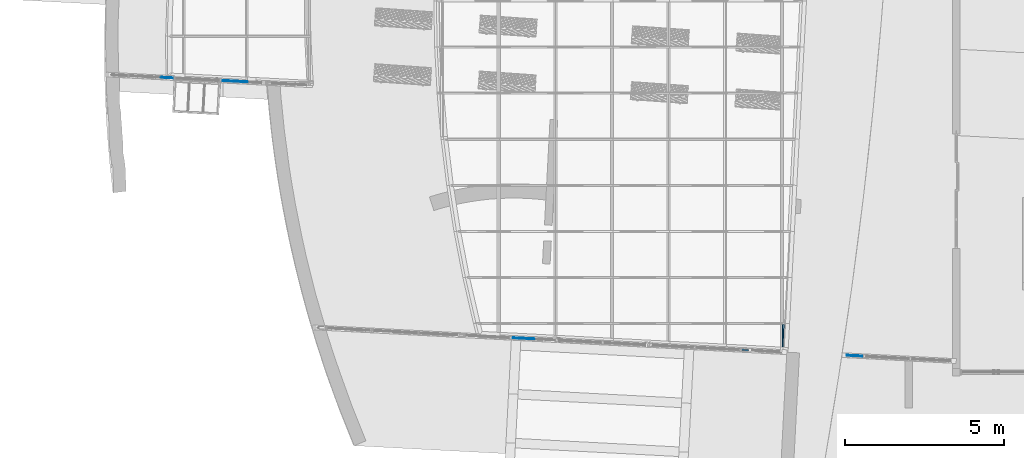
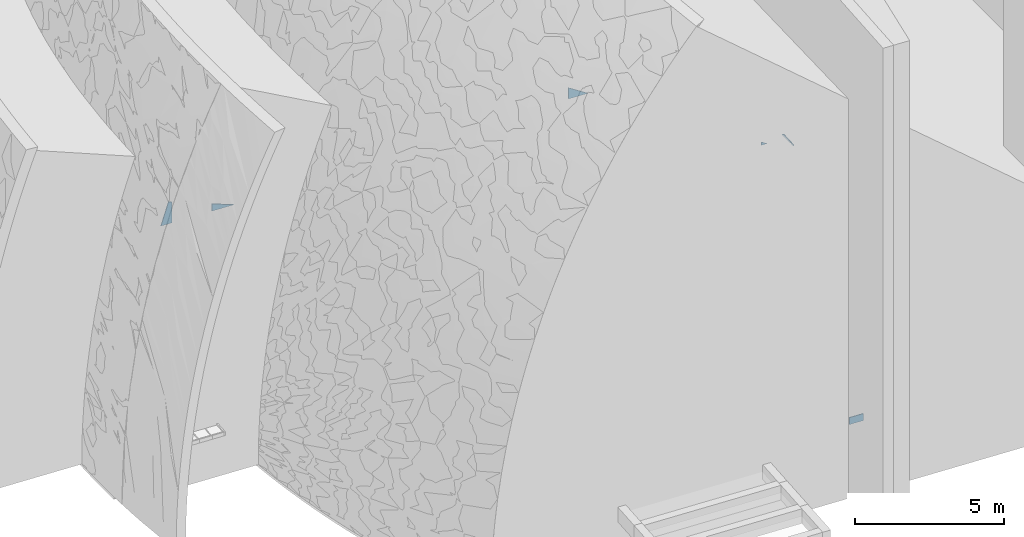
# One storey, part 47 of 82: 6 plates, 3 elements without a shape of their own.
"""IFC2X3 building model written with IfcOpenShell, lengths in millimetres."""

from ifc_helpers import new_model, entity, si_unit, converted_unit, derived_unit, direction, frame, frame_2d, origin, place, context, subcontext, project, spatial, polyline, rectangle, outline, extrude, source, transform, mapped, material, layer, layer_set, layer_usage, type_object, type_shapes, element, aggregate, save


model = new_model("IFC2X3")

# Units and contexts
model_context = context("Model", 3, precision=0.01, world=origin(), true_north=direction((6.12303176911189e-17, 1.0)))
body_context = subcontext(model_context, "Body", "Model", "MODEL_VIEW")
ifc_project = project(units=[si_unit("LENGTHUNIT", "METRE", prefix="MILLI"), si_unit("AREAUNIT", "SQUARE_METRE"), si_unit("VOLUMEUNIT", "CUBIC_METRE"), converted_unit("PLANEANGLEUNIT", "DEGREE", entity("IfcRatioMeasure", 0.0174532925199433), si_unit("PLANEANGLEUNIT", "RADIAN"), dimensions=[0, 0, 0, 0, 0, 0, 0]), si_unit("MASSUNIT", "GRAM", prefix="KILO"), derived_unit("MASSDENSITYUNIT", [(si_unit("MASSUNIT", "GRAM", prefix="KILO"), 1), (si_unit("LENGTHUNIT", "METRE"), -3)]), si_unit("TIMEUNIT", "SECOND"), si_unit("FREQUENCYUNIT", "HERTZ"), si_unit("THERMODYNAMICTEMPERATUREUNIT", "DEGREE_CELSIUS"), derived_unit("THERMALTRANSMITTANCEUNIT", [(si_unit("MASSUNIT", "GRAM", prefix="KILO"), 1), (si_unit("THERMODYNAMICTEMPERATUREUNIT", "KELVIN"), -1), (si_unit("TIMEUNIT", "SECOND"), -3)]), derived_unit("VOLUMETRICFLOWRATEUNIT", [(si_unit("LENGTHUNIT", "METRE"), 3), (si_unit("TIMEUNIT", "SECOND"), -1)]), si_unit("ELECTRICCURRENTUNIT", "AMPERE"), si_unit("ELECTRICVOLTAGEUNIT", "VOLT"), si_unit("POWERUNIT", "WATT"), si_unit("FORCEUNIT", "NEWTON", prefix="KILO"), si_unit("ILLUMINANCEUNIT", "LUX"), si_unit("LUMINOUSFLUXUNIT", "LUMEN"), si_unit("LUMINOUSINTENSITYUNIT", "CANDELA"), derived_unit("USERDEFINED", [(si_unit("MASSUNIT", "GRAM", prefix="KILO"), -1), (si_unit("LENGTHUNIT", "METRE"), -2), (si_unit("TIMEUNIT", "SECOND"), 3), (si_unit("LUMINOUSFLUXUNIT", "LUMEN"), 1)]), derived_unit("LINEARVELOCITYUNIT", [(si_unit("LENGTHUNIT", "METRE"), 1), (si_unit("TIMEUNIT", "SECOND"), -1)]), si_unit("PRESSUREUNIT", "PASCAL"), derived_unit("USERDEFINED", [(si_unit("LENGTHUNIT", "METRE"), -2), (si_unit("MASSUNIT", "GRAM", prefix="KILO"), 1), (si_unit("TIMEUNIT", "SECOND"), -2)])], contexts=[model_context])

# Site, building, storey
site_placement = place(None, origin())
site = spatial("IfcSite", under=ifc_project, at=site_placement, Name="表面", CompositionType="ELEMENT")
building_placement = place(site_placement, origin())
building = spatial("IfcBuilding", under=site, at=building_placement, CompositionType="ELEMENT")
storey_placement = place(building_placement, origin())
storey = spatial("IfcBuildingStorey", under=building, at=storey_placement, Name="1F", CompositionType="ELEMENT", Elevation=0.0)

# Curtain wall, plate
curtain_wall_type = type_object("IfcCurtainWallType", Name="幕墙系统:1450 x 2100mm", PredefinedType="NOTDEFINED")
curtain_wall_1_placement = place(storey_placement, origin())
curtain_wall_1 = element("IfcCurtainWall", 1, at=curtain_wall_1_placement, inside=storey, type_object=curtain_wall_type, Name="幕墙系统:1450 x 2100mm", ObjectType="幕墙系统:1450 x 2100mm")
ifc_material = material(Name="<Unnamed>")
ifc_layer = layer(ifc_material, 30.0)
ifc_layer_set = layer_set([ifc_layer], Name="幕墙系统:1450 x 2100mm")
ifc_layer_usage_1 = layer_usage(ifc_layer_set, "AXIS3", "POSITIVE", 0.0)
plate_type_1 = type_object("IfcPlateType", Name="玻璃", PredefinedType="CURTAIN_PANEL", material=ifc_layer_set)
shared_shape_1 = source(origin(), body_context, "Body", "SweptSolid", [
    extrude(rectangle(XDim=30.0, YDim=525.869379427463, at=frame_2d((0.0, 2.8421709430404e-14), x_axis=(1.0, 0.0))), frame((0.0, 0.0, 0.0), z_axis=(0.0, 0.0, 1.0), x_axis=(0.0, 1.0, 0.0)), (0.0, 0.0, 1.0), 285.207110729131),
])
type_shapes(plate_type_1, [shared_shape_1])
plate_1_placement = place(curtain_wall_1_placement, frame((-17613.8156486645, -28900.0248162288, 150.0), z_axis=(0.0, 0.0, 1.0), x_axis=(-0.998629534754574, 0.0523359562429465, 0.0)))
plate_1 = element("IfcPlate", 2, at=plate_1_placement, type_object=plate_type_1, material=ifc_layer_usage_1, Name="系统嵌板:玻璃", ObjectType="玻璃", context=body_context, shape_type="MappedRepresentation", body=[
    mapped(shared_shape_1, transform((0.0, 0.0, 0.0), scale=1.0)),
])
aggregate(curtain_wall_1, [plate_1])

# Curtain wall, plates
curtain_wall_2_placement = place(storey_placement, origin())
curtain_wall_2 = element("IfcCurtainWall", 3, at=curtain_wall_2_placement, inside=storey, type_object=curtain_wall_type, Name="幕墙系统:1450 x 2100mm", ObjectType="幕墙系统:1450 x 2100mm")
ifc_layer_usage_2 = layer_usage(ifc_layer_set, "AXIS3", "POSITIVE", 0.0)
plate_type_2 = type_object("IfcPlateType", Name="玻璃", PredefinedType="CURTAIN_PANEL", material=ifc_layer_set)
shared_shape_2 = source(origin(), body_context, "Body", "SweptSolid", [
    extrude(outline(polyline([(-43.8732163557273, -358.371192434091), (21.7119500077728, -358.371192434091), (21.7119500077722, 357.898690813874), (0.449316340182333, 358.843694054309), (-43.8732163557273, -358.371192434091)])), frame((-0.236250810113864, -15.0, 43.8732163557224), z_axis=(0.0, 1.0, 0.0), x_axis=(0.0, 0.0, 1.0)), (0.0, 0.0, 1.0), 30.0),
])
type_shapes(plate_type_2, [shared_shape_2])
plate_2_placement = place(curtain_wall_2_placement, frame((-19842.2790351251, -28272.5105967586, 12095.0289723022), z_axis=(-0.848048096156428, 0.0, 0.529919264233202), x_axis=(0.0, -1.0, 0.0)))
plate_2 = element("IfcPlate", 4, at=plate_2_placement, type_object=plate_type_2, material=ifc_layer_usage_2, Name="系统嵌板:玻璃", ObjectType="玻璃", context=body_context, shape_type="MappedRepresentation", body=[
    mapped(shared_shape_2, transform((0.0, 0.0, 0.0), scale=1.0)),
])
ifc_layer_usage_3 = layer_usage(ifc_layer_set, "AXIS3", "POSITIVE", 0.0)
plate_type_3 = type_object("IfcPlateType", Name="玻璃", PredefinedType="CURTAIN_PANEL", material=ifc_layer_set)
shared_shape_3 = source(origin(), body_context, "Body", "SweptSolid", [
    extrude(outline(polyline([(-142.29281764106, -37.1611517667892), (105.929970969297, -37.1611517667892), (36.3628466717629, 74.3223035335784), (-142.29281764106, -37.1611517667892)])), frame((35.0976444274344, -15.0, 43.8027720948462), z_axis=(0.0, 1.0, 0.0), x_axis=(0.848374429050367, 0.0, 0.529396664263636)), (0.0, 0.0, 1.0), 30.0),
])
type_shapes(plate_type_3, [shared_shape_3])
plate_3_placement = place(curtain_wall_2_placement, frame((-21078.511708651, -28718.4477898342, 12625.0), z_axis=(0.0, 0.0, 1.0), x_axis=(-0.998629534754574, 0.0523359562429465, 0.0)))
plate_3 = element("IfcPlate", 5, at=plate_3_placement, type_object=plate_type_3, material=ifc_layer_usage_3, Name="系统嵌板:玻璃", ObjectType="玻璃", context=body_context, shape_type="MappedRepresentation", body=[
    mapped(shared_shape_3, transform((0.0, 0.0, 0.0), scale=1.0)),
])
ifc_layer_usage_4 = layer_usage(ifc_layer_set, "AXIS3", "POSITIVE", 0.0)
plate_type_4 = type_object("IfcPlateType", Name="玻璃", PredefinedType="CURTAIN_PANEL", material=ifc_layer_set)
shared_shape_4 = source(origin(), body_context, "Body", "SweptSolid", [
    extrude(outline(polyline([(-493.231595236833, -128.812223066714), (367.186548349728, -128.812223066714), (126.045046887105, 257.624446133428), (-493.231595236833, -128.812223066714)])), frame((121.659458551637, -15.0, 151.834165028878), z_axis=(0.0, 1.0, 0.0), x_axis=(0.848374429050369, 0.0, 0.529396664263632)), (0.0, 0.0, 1.0), 30.0),
])
type_shapes(plate_type_4, [shared_shape_4])
plate_4_placement = place(curtain_wall_2_placement, frame((-28059.2462831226, -28352.6029930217, 16825.0), z_axis=(0.0, 0.0, 1.0), x_axis=(-0.998629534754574, 0.0523359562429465, 0.0)))
plate_4 = element("IfcPlate", 6, at=plate_4_placement, type_object=plate_type_4, material=ifc_layer_usage_4, Name="系统嵌板:玻璃", ObjectType="玻璃", context=body_context, shape_type="MappedRepresentation", body=[
    mapped(shared_shape_4, transform((0.0, 0.0, 0.0), scale=1.0)),
])
aggregate(curtain_wall_2, [plate_2, plate_3, plate_4])

curtain_wall_3_placement = place(storey_placement, origin())
curtain_wall_3 = element("IfcCurtainWall", 7, at=curtain_wall_3_placement, inside=storey, type_object=curtain_wall_type, Name="幕墙系统:1450 x 2100mm", ObjectType="幕墙系统:1450 x 2100mm")
ifc_layer_usage_5 = layer_usage(ifc_layer_set, "AXIS3", "POSITIVE", 0.0)
plate_type_5 = type_object("IfcPlateType", Name="玻璃", PredefinedType="CURTAIN_PANEL", material=ifc_layer_set)
shared_shape_5 = source(origin(), body_context, "Body", "SweptSolid", [
    extrude(outline(polyline([(-558.692920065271, -95.2431026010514), (331.273679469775, -95.2431026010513), (227.419240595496, 190.486205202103), (-558.692920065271, -95.2431026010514)])), frame((139.404842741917, -15.0, 101.339353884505), z_axis=(0.0, 1.0, 0.0), x_axis=(0.939843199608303, 0.0, 0.341606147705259)), (0.0, 0.0, 1.0), 30.0),
])
type_shapes(plate_type_5, [shared_shape_5])
plate_5_placement = place(curtain_wall_3_placement, frame((-37135.844031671, -20262.9171535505, 10525.0), z_axis=(0.0, 0.0, 1.0), x_axis=(-0.998629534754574, 0.0523359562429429, 0.0)))
plate_5 = element("IfcPlate", 8, at=plate_5_placement, type_object=plate_type_5, material=ifc_layer_usage_5, Name="系统嵌板:玻璃", ObjectType="玻璃", context=body_context, shape_type="MappedRepresentation", body=[
    mapped(shared_shape_5, transform((0.0, 0.0, 0.0), scale=1.0)),
])
ifc_layer_usage_6 = layer_usage(ifc_layer_set, "AXIS3", "POSITIVE", 0.0)
plate_type_6 = type_object("IfcPlateType", Name="玻璃", PredefinedType="CURTAIN_PANEL", material=ifc_layer_set)
shared_shape_6 = source(origin(), body_context, "Body", "SweptSolid", [
    extrude(outline(polyline([(-435.95692386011, -133.830796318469), (413.268276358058, -133.830796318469), (458.645571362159, -8.98660831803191), (-435.956923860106, 276.648200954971), (-435.95692386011, -133.830796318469)])), frame((-71.4087023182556, -15.0, 435.956923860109), z_axis=(0.0, 1.0, 0.0), x_axis=(0.0, 0.0, 1.0)), (0.0, 0.0, 1.0), 30.0),
])
type_shapes(plate_type_6, [shared_shape_6])
plate_6_placement = place(curtain_wall_3_placement, frame((-39256.3879385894, -20151.7841565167, 10525.0), z_axis=(0.0, 0.0, 1.0), x_axis=(-0.998629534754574, 0.0523359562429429, 0.0)))
plate_6 = element("IfcPlate", 9, at=plate_6_placement, type_object=plate_type_6, material=ifc_layer_usage_6, Name="系统嵌板:玻璃", ObjectType="玻璃", context=body_context, shape_type="MappedRepresentation", body=[
    mapped(shared_shape_6, transform((0.0, 0.0, 0.0), scale=1.0)),
])
aggregate(curtain_wall_3, [plate_5, plate_6])

save(model, "model.ifc")
